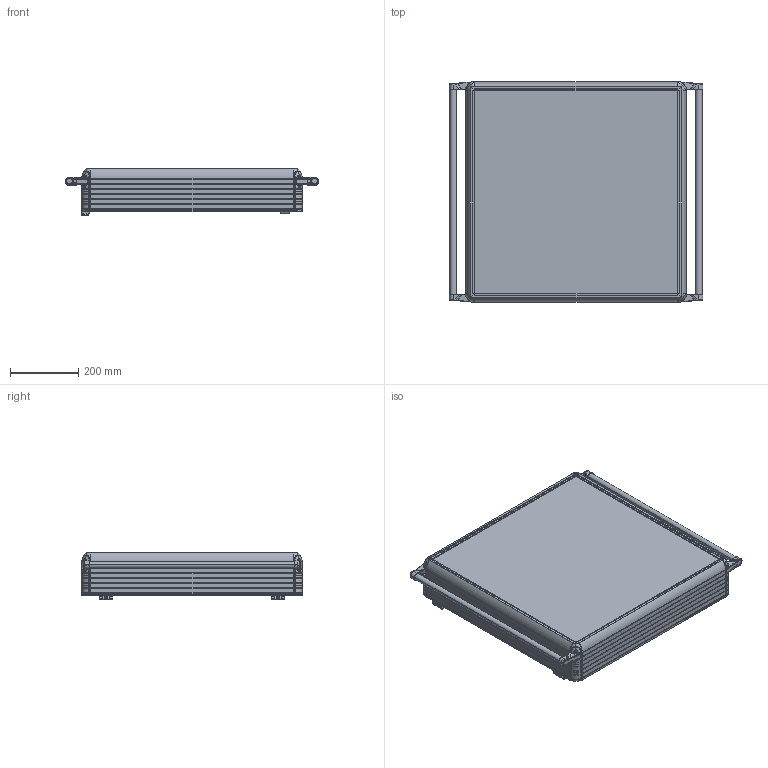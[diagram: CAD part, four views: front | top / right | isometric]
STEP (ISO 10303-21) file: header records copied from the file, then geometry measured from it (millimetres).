
FILE_DESCRIPTION (( 'STEP AP214' ), '1' );
FILE_NAME ('1200-0216.STEP', '2022-09-01T08:13:59', ( '' ), ( '' ), 'SwSTEP 2.0', 'SolidWorks 2022', '' );
FILE_SCHEMA (( 'AUTOMOTIVE_DESIGN' ));
Length unit declared in the file: millimetre
Products named in the file (7): 600X600; ARKA_KAPAK_600X600; ECO1200-0100(SOL); boru_625; 1200-0216; ECO1200-0100(SAÐ); HPECO-120-001-295_595
Assembly tree (12 placements, depth 2):
  1200-0216
    600X600
    ARKA_KAPAK_600X600
    HPECO-120-001-295_595  x4
    boru_625  x2
    ECO1200-0100(SAÐ)  x2
    ECO1200-0100(SOL)  x2
Bounding box: 744.62 x 647 x 139.15 mm (x, y, z)
Volume: 6707490.8 mm3; surface area: 2665529.7 mm2
Topology: 20 solids, 74 shells, 6953 faces, 18774 edges, 11682 vertices
Faces by surface type: plane 2745, cylinder 1840, bspline 1380, cone 598, torus 344, sphere 46
Entity records: 211013 total; most frequent: CARTESIAN_POINT 57282, ORIENTED_EDGE 24408, DIRECTION 19920, EDGE_CURVE 12204, VERTEX_POINT 7600, AXIS2_PLACEMENT_3D 7238, LINE 5444, VECTOR 5444
